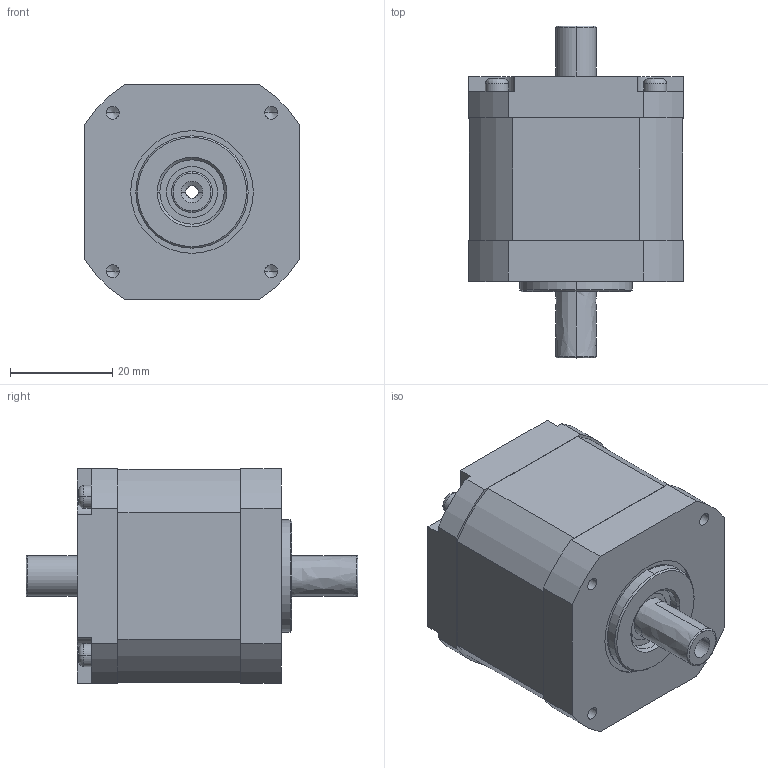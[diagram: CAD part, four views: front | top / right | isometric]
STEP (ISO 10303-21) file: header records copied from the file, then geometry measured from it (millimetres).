
FILE_DESCRIPTION((''),'2;1');
FILE_NAME('EXMK244-01B-C4-O','2022-02-09T',('LU'),(''),'PRO/ENGINEER BY PARAMETRIC TECHNOLOGY CORPORATION, 2007390','PRO/ENGINEER BY PARAMETRIC TECHNOLOGY CORPORATION, 2007390','');
FILE_SCHEMA(('CONFIG_CONTROL_DESIGN'));
Length unit declared in the file: millimetre
Products named in the file (1): EXMK244-01B-C4-O
Bounding box: 42 x 65 x 42 mm (x, y, z)
Volume: 66589.2 mm3; surface area: 11070.5 mm2
Topology: 1 solids, 1 shells, 116 faces, 282 edges, 176 vertices
Faces by surface type: bspline 116
Entity records: 4720 total; most frequent: CARTESIAN_POINT 2222, ORIENTED_EDGE 548, DIRECTION 406, EDGE_CURVE 274, VERTEX_POINT 176, VECTOR 142, LINE 142, EDGE_LOOP 134
